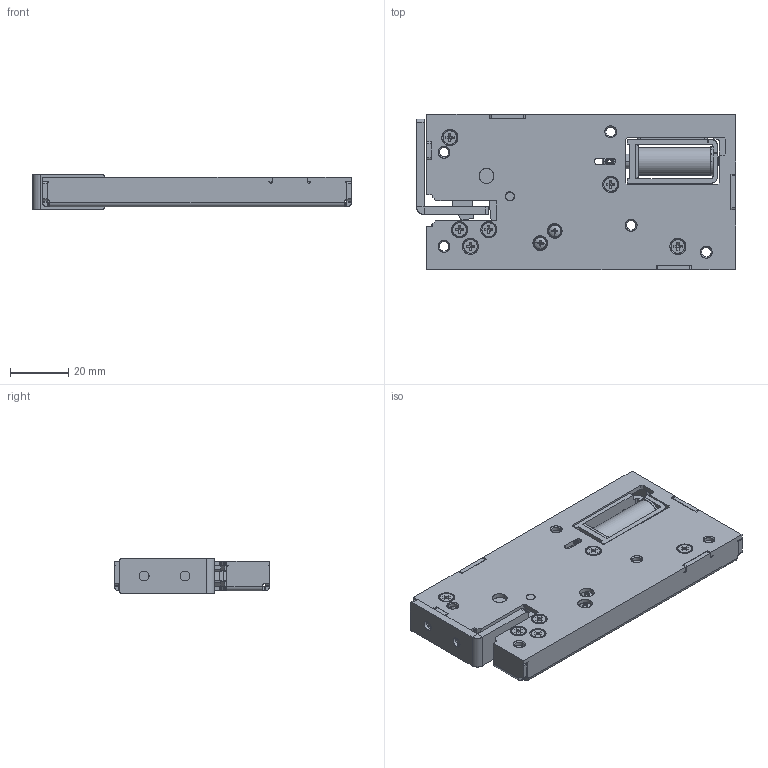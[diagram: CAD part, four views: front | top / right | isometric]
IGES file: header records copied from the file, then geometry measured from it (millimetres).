
Start section: SolidWorks IGES file using analytic representation for surfaces
Bounding box: 109.14 x 53.2 x 12 mm (x, y, z)
Surface area: 35217.2 mm2 (no closed solid volume)
Topology: 0 solids, 0 shells, 1408 faces, 14903 edges, 14867 vertices
Faces by surface type: bspline 711, revolution 697
